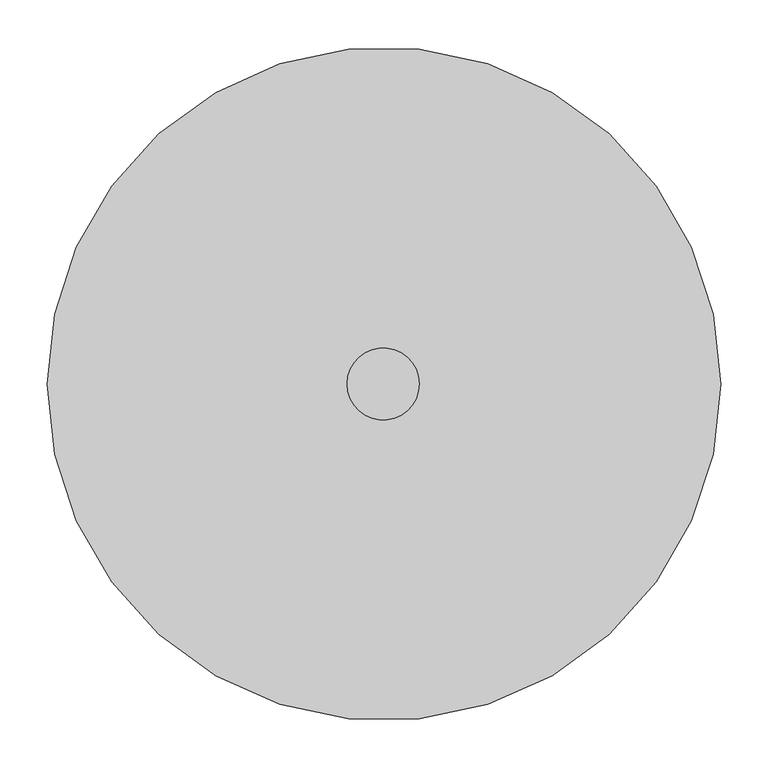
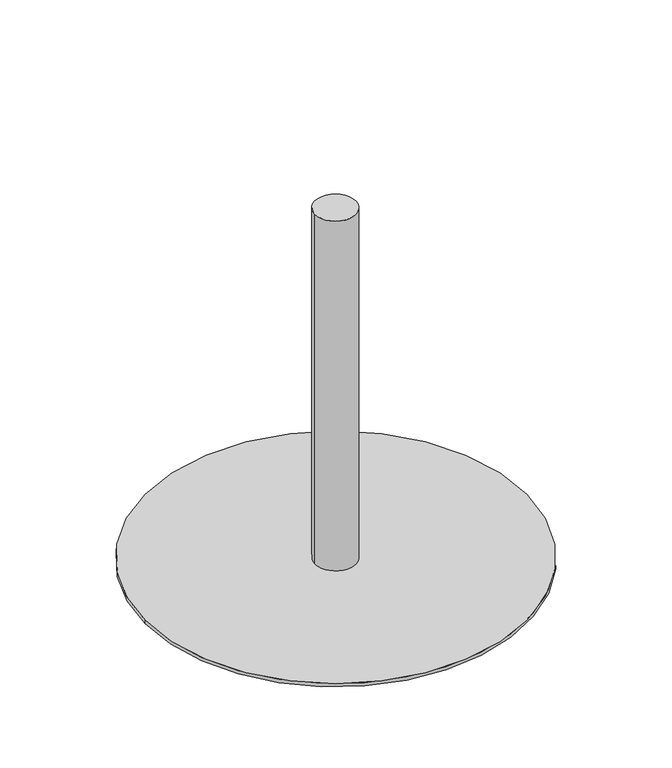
"""IFC4 building model written with IfcOpenShell, lengths in millimetres: furniture geometry, Steelcase - Groupwork - Table - Base : Round Table Base - 27 3/8H x 28dia Base x 3dia Column."""

import ifcopenshell
import ifcopenshell.guid

model = None  # the IFC model being written
_history = None  # IfcOwnerHistory: only IFC2X3 demands one
_inside = {}  # id of a spatial element -> (the spatial element, [elements in it])
_under = {}  # id of a project, library or spatial element -> (it, [spatial elements below it])
_declared = {}  # id of a project -> (the project, [libraries it declares])
_typed = {}  # id of a type object -> (the type object, [elements of that type])
_made_of = {}  # id of a material, layer set ... -> (it, [elements and type objects made of it])


def new_model(schema):
    """Start an empty IFC model of exactly this schema.

    Asked for "IFC4X3", IfcOpenShell would pick the latest addendum, in which some entities
    have other attributes; the version numbers below select the first issue.
    IFC2X3 requires an IfcOwnerHistory on every rooted entity: one is made here for all.
    """
    global model, _history
    if schema == "IFC4X3":
        model = ifcopenshell.file(schema_version=(4, 3, 0, 0))
    else:
        model = ifcopenshell.file(schema=schema)
    _inside.clear()
    _under.clear()
    _declared.clear()
    _typed.clear()
    _made_of.clear()
    _history = None
    if model.schema == "IFC2X3":
        org = make("IfcOrganization", Name="unknown")
        user = make(
            "IfcPersonAndOrganization",
            ThePerson=make("IfcPerson", FamilyName="unknown"),
            TheOrganization=org,
        )
        app = make(
            "IfcApplication",
            ApplicationDeveloper=org,
            Version="unknown",
            ApplicationFullName="unknown",
            ApplicationIdentifier="unknown",
        )
        _history = make(
            "IfcOwnerHistory",
            OwningUser=user,
            OwningApplication=app,
            ChangeAction="ADDED",
            CreationDate=0,
        )
    return model


def make(cls, **values):
    """One entity of the class cls with the attributes given. An attribute that is None is left unset."""
    return model.create_entity(
        cls, **{name: value for name, value in values.items() if value is not None}
    )


def rooted(cls, **values):
    """An entity with a GlobalId (a new one), such as an element, a storey or a relation."""
    return make(cls, GlobalId=ifcopenshell.guid.new(), OwnerHistory=_history, **values)


def si_unit(unit_type, name, prefix=None):
    """IfcSIUnit, for example si_unit("LENGTHUNIT", "METRE", prefix="MILLI")."""
    return make("IfcSIUnit", UnitType=unit_type, Prefix=prefix, Name=name)


def assignment(units):
    """IfcUnitAssignment: the units of a project."""
    return None if units is None else make("IfcUnitAssignment", Units=units)


def point(xyz):
    """IfcCartesianPoint."""
    return None if xyz is None else make("IfcCartesianPoint", Coordinates=xyz)


def direction(xyz):
    """IfcDirection."""
    return None if xyz is None else make("IfcDirection", DirectionRatios=xyz)


def frame(location, z_axis=None, x_axis=None):
    """IfcAxis2Placement3D, a coordinate frame: its origin and axes. An axis left out is left unset."""
    return make(
        "IfcAxis2Placement3D",
        Location=point(location),
        Axis=direction(z_axis),
        RefDirection=direction(x_axis),
    )


def frame_2d(location, x_axis=None):
    """IfcAxis2Placement2D, a coordinate frame in the plane: its origin and x axis."""
    return make(
        "IfcAxis2Placement2D", Location=point(location), RefDirection=direction(x_axis)
    )


def origin():
    """The frame at (0, 0, 0) with its axes left unset."""
    return frame((0.0, 0.0, 0.0))


def origin_with_axes():
    """The frame at (0, 0, 0) with the z axis (0, 0, 1) and the x axis (1, 0, 0) written out."""
    return frame((0.0, 0.0, 0.0), z_axis=(0.0, 0.0, 1.0), x_axis=(1.0, 0.0, 0.0))


def origin_2d():
    """The frame at (0, 0) in the plane with its x axis left unset."""
    return frame_2d((0.0, 0.0))


def place(relative_to, where):
    """IfcLocalPlacement: puts the frame where relative to a parent placement (None: the world)."""
    return make(
        "IfcLocalPlacement", PlacementRelTo=relative_to, RelativePlacement=where
    )


def context(
    kind, dimensions, precision=None, world=None, true_north=None, identifier=None
):
    """IfcGeometricRepresentationContext, for example the 3D "Model" context."""
    return make(
        "IfcGeometricRepresentationContext",
        ContextIdentifier=identifier,
        ContextType=kind,
        CoordinateSpaceDimension=dimensions,
        Precision=precision,
        WorldCoordinateSystem=world,
        TrueNorth=true_north,
    )


def project(units=None, contexts=None):
    """IfcProject with its units and contexts."""
    return rooted(
        "IfcProject",
        Name="project",
        RepresentationContexts=contexts,
        UnitsInContext=assignment(units),
    )


def spatial(cls, under=None, at=None, **own):
    """A site, building, storey or space (cls), placed at a placement, below another one or the project."""
    s = rooted(cls, ObjectPlacement=at, **own)
    if under is not None:
        _under.setdefault(under.id(), (under, []))[1].append(s)
    return s


def circle_curve(where, radius):
    """IfcCircle in the frame where."""
    return make("IfcCircle", Position=where, Radius=radius)


def trimmed(basis, trim1, trim2, sense, master):
    """IfcTrimmedCurve: the piece of a basis curve between two trims."""
    return make(
        "IfcTrimmedCurve",
        BasisCurve=basis,
        Trim1=trim1,
        Trim2=trim2,
        SenseAgreement=sense,
        MasterRepresentation=master,
    )


def segment(curve, same_sense, transition):
    """IfcCompositeCurveSegment."""
    return make(
        "IfcCompositeCurveSegment",
        Transition=transition,
        SameSense=same_sense,
        ParentCurve=curve,
    )


def composite_curve(segments, self_intersect=None):
    """IfcCompositeCurve: segments joined end to end."""
    return make("IfcCompositeCurve", Segments=segments, SelfIntersect=self_intersect)


def outline(outer, holes=None, kind="AREA"):
    """IfcArbitraryClosedProfileDef: a profile drawn as a closed curve; with holes, ...WithVoids."""
    if holes is None:
        return make("IfcArbitraryClosedProfileDef", ProfileType=kind, OuterCurve=outer)
    return make(
        "IfcArbitraryProfileDefWithVoids",
        ProfileType=kind,
        OuterCurve=outer,
        InnerCurves=holes,
    )


def extrude(swept, where, along, depth):
    """IfcExtrudedAreaSolid: the profile swept, set in the frame where, extruded along a direction by depth."""
    return make(
        "IfcExtrudedAreaSolid",
        SweptArea=swept,
        Position=where,
        ExtrudedDirection=direction(along),
        Depth=depth,
    )


def shape(context_of_items, identifier, shape_type, items):
    """IfcShapeRepresentation: the items that make up one representation, for example the "Body"."""
    return make(
        "IfcShapeRepresentation",
        ContextOfItems=context_of_items,
        RepresentationIdentifier=identifier,
        RepresentationType=shape_type,
        Items=items,
    )


def source(mapping_origin, context_of_items, identifier, shape_type, items):
    """IfcRepresentationMap: a shape defined once, which mapped items show again and again."""
    return make(
        "IfcRepresentationMap",
        MappingOrigin=mapping_origin,
        MappedRepresentation=shape(context_of_items, identifier, shape_type, items),
    )


def transform(
    local_origin,
    x_axis=None,
    y_axis=None,
    z_axis=None,
    scale=None,
    scale2=None,
    scale3=None,
    uniform=True,
):
    """IfcCartesianTransformationOperator3D, or its non-uniform kind. x_axis, y_axis, z_axis: its Axis1, 2, 3."""
    if uniform:
        return make(
            "IfcCartesianTransformationOperator3D",
            Axis1=direction(x_axis),
            Axis2=direction(y_axis),
            LocalOrigin=point(local_origin),
            Scale=scale,
            Axis3=direction(z_axis),
        )
    return make(
        "IfcCartesianTransformationOperator3DnonUniform",
        Axis1=direction(x_axis),
        Axis2=direction(y_axis),
        LocalOrigin=point(local_origin),
        Scale=scale,
        Axis3=direction(z_axis),
        Scale2=scale2,
        Scale3=scale3,
    )


def mapped(mapping_source, mapping_target):
    """IfcMappedItem: shows the shape of a source again, moved by a transform."""
    return make(
        "IfcMappedItem", MappingSource=mapping_source, MappingTarget=mapping_target
    )


def made_of(thing, what):
    """Note that an element or type object is made of a material, layer set ...; save() writes the relation."""
    if what is not None:
        _made_of.setdefault(what.id(), (what, []))[1].append(thing)
    return thing


def element(
    cls,
    number,
    at=None,
    inside=None,
    cuts=None,
    type_object=None,
    material=None,
    context=None,
    identifier="Body",
    shape_type=None,
    held_by="IfcProductDefinitionShape",
    body=None,
    shapes=None,
    **own,
):
    """One element of the class cls, such as IfcWall. Its Tag is "e" and its number.

    at: its placement. inside: the storey or other place that contains it. cuts: it is an
    opening in that element (IfcRelVoidsElement). A single representation is given by context,
    identifier, shape_type and body (its items); several are given by shapes. held_by: the class
    of the entity that holds the representations. save() writes the other relations.
    """
    e = rooted(cls, Tag="e%d" % number, ObjectPlacement=at, **own)
    if body is not None:
        shapes = [shape(context, identifier, shape_type, body)]
    if shapes is not None:
        e.Representation = make(held_by, Representations=shapes)
    if inside is not None:
        _inside.setdefault(inside.id(), (inside, []))[1].append(e)
    if cuts is not None:
        rooted(
            "IfcRelVoidsElement", RelatingBuildingElement=cuts, RelatedOpeningElement=e
        )
    if type_object is not None:
        _typed.setdefault(type_object.id(), (type_object, []))[1].append(e)
    return made_of(e, material)


def aggregate(whole, parts):
    """IfcRelAggregates: a whole, such as a stair, and the parts it consists of."""
    return rooted("IfcRelAggregates", RelatingObject=whole, RelatedObjects=parts)


def save(model, path):
    """Write the relations noted so far, then the file.

    IfcRelAggregates (storeys below a building ...), IfcRelContainedInSpatialStructure (elements
    in a storey), IfcRelDefinesByType, IfcRelAssociatesMaterial and IfcRelDeclares: one each for
    every whole, place, type object, material and project.
    """
    for whole, parts in _under.values():
        aggregate(whole, parts)
    for where, things in _inside.values():
        rooted(
            "IfcRelContainedInSpatialStructure",
            RelatedElements=things,
            RelatingStructure=where,
        )
    for kind, things in _typed.values():
        rooted("IfcRelDefinesByType", RelatedObjects=things, RelatingType=kind)
    for what, things in _made_of.values():
        rooted("IfcRelAssociatesMaterial", RelatedObjects=things, RelatingMaterial=what)
    for by, libraries in _declared.values():
        rooted("IfcRelDeclares", RelatingContext=by, RelatedDefinitions=libraries)
    model.write(path)


def furniture_b53e391e(model_context):
    return source(origin(), model_context, "Body", "SweptSolid", [
        extrude(outline(composite_curve([segment(trimmed(circle_curve(frame_2d((-0.79375, 0.0)), 38.1), [point((-38.89375, 0.0))], [point((37.30625, 0.0))], False, "CARTESIAN"), True, "CONTINUOUS"), segment(trimmed(circle_curve(frame_2d((-0.79375, 0.0)), 38.1), [point((37.30625, 0.0))], [point((-38.89375, 0.0))], False, "CARTESIAN"), True, "CONTINUOUS")], self_intersect=False)), frame((0.0, 0.0, 6.35), z_axis=(0.0, 0.0, 1.0), x_axis=(1.0, 0.0, 0.0)), (0.0, 0.0, 1.0), 689.102),
        extrude(outline(composite_curve([segment(trimmed(circle_curve(origin_2d(), 355.6), [point((-355.6, 0.0))], [point((355.6, 0.0))], False, "CARTESIAN"), True, "CONTINUOUS"), segment(trimmed(circle_curve(origin_2d(), 355.6), [point((355.6, 0.0))], [point((-355.6, 0.0))], False, "CARTESIAN"), True, "CONTINUOUS")], self_intersect=False)), origin_with_axes(), (0.0, 0.0, 1.0), 6.35),
    ])


if __name__ == "__main__":
    model = new_model("IFC4")
    model_context = context("Model", 3, world=origin())
    ifc_project = project(units=[si_unit("LENGTHUNIT", "METRE", prefix="MILLI")], contexts=[model_context])
    site = spatial("IfcSite", under=ifc_project)
    building = spatial("IfcBuilding", under=site)
    placement = place(None, origin())
    furniture_shape = furniture_b53e391e(model_context)
    element("IfcFurniture", 1, ObjectType="Steelcase - Groupwork - Table - Base : Round Table Base - 27 3/8H x 28dia Base x 3dia Column", at=placement, inside=building, context=model_context, shape_type="MappedRepresentation", body=[
        mapped(furniture_shape, transform((0.0, 0.0, 0.0), x_axis=(1.0, 0.0, 0.0), y_axis=(0.0, 1.0, 0.0), z_axis=(0.0, 0.0, 1.0))),
    ])
    save(model, "model.ifc")
